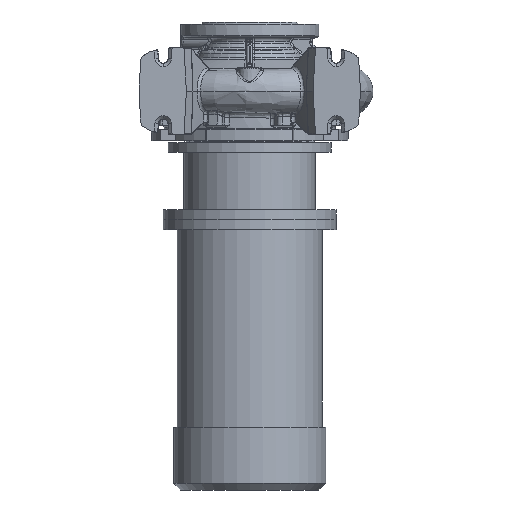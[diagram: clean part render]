
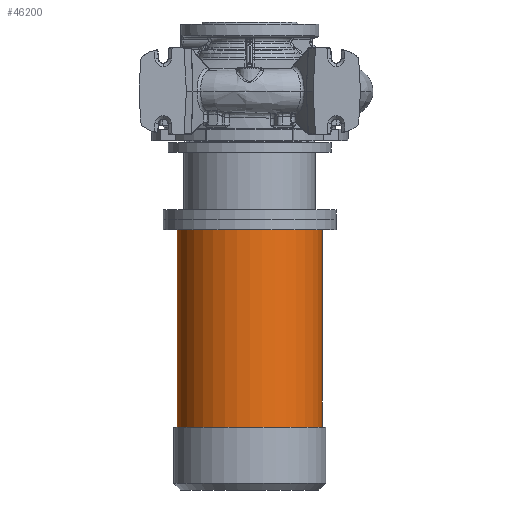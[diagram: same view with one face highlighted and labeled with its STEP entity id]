
A CAD part, front view. The second image highlights one B-rep face of the part: STEP entity #46200.
In plain terms, the highlighted cylindrical face has radius 105 mm (diameter 210 mm), a partial arc.
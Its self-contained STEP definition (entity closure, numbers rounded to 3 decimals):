
#801 = CARTESIAN_POINT ( 'NONE',  ( 105., 0., -485.3 ) ) ;
#1701 = VECTOR ( 'NONE', #11023, 1000. ) ;
#2691 = EDGE_CURVE ( 'NONE', #8380, #20653, #55429, .T. ) ;
#5071 = AXIS2_PLACEMENT_3D ( 'NONE', #41574, #36044, #14710 ) ;
#6377 = DIRECTION ( 'NONE',  ( 0., 0., -1. ) ) ;
#8380 = VERTEX_POINT ( 'NONE', #27964 ) ;
#8993 = ORIENTED_EDGE ( 'NONE', *, *, #9172, .F. ) ;
#9172 = EDGE_CURVE ( 'NONE', #20653, #25339, #13525, .T. ) ;
#9683 = EDGE_CURVE ( 'NONE', #51011, #25339, #40366, .T. ) ;
#10262 = ORIENTED_EDGE ( 'NONE', *, *, #9683, .T. ) ;
#11023 = DIRECTION ( 'NONE',  ( 0., 0., -1. ) ) ;
#13525 = CIRCLE ( 'NONE', #5071, 105. ) ;
#13576 = CARTESIAN_POINT ( 'NONE',  ( -105., 0., -485.3 ) ) ;
#14710 = DIRECTION ( 'NONE',  ( -1., 0., 0. ) ) ;
#20653 = VERTEX_POINT ( 'NONE', #801 ) ;
#20682 = EDGE_CURVE ( 'NONE', #8380, #51011, #66821, .T. ) ;
#22100 = FACE_OUTER_BOUND ( 'NONE', #54593, .T. ) ;
#23931 = VECTOR ( 'NONE', #32079, 1000. ) ;
#25339 = VERTEX_POINT ( 'NONE', #13576 ) ;
#25518 = DIRECTION ( 'NONE',  ( -1., 0., 0. ) ) ;
#27964 = CARTESIAN_POINT ( 'NONE',  ( 105., 0., -200.3 ) ) ;
#31174 = AXIS2_PLACEMENT_3D ( 'NONE', #39503, #6377, #45041 ) ;
#32079 = DIRECTION ( 'NONE',  ( 0., 0., -1. ) ) ;
#33898 = CARTESIAN_POINT ( 'NONE',  ( -105., 0., -200.3 ) ) ;
#35078 = CYLINDRICAL_SURFACE ( 'NONE', #39483, 105. ) ;
#36044 = DIRECTION ( 'NONE',  ( 0., 0., -1. ) ) ;
#38811 = CARTESIAN_POINT ( 'NONE',  ( 105., 0., -576.3 ) ) ;
#39483 = AXIS2_PLACEMENT_3D ( 'NONE', #64518, #58497, #25518 ) ;
#39503 = CARTESIAN_POINT ( 'NONE',  ( 0., 0., -200.3 ) ) ;
#40366 = LINE ( 'NONE', #52139, #23931 ) ;
#41574 = CARTESIAN_POINT ( 'NONE',  ( 0., 0., -485.3 ) ) ;
#45041 = DIRECTION ( 'NONE',  ( -1., 0., 0. ) ) ;
#46200 = ADVANCED_FACE ( 'NONE', ( #22100 ), #35078, .T. ) ;
#51011 = VERTEX_POINT ( 'NONE', #33898 ) ;
#51698 = ORIENTED_EDGE ( 'NONE', *, *, #2691, .F. ) ;
#52139 = CARTESIAN_POINT ( 'NONE',  ( -105., 0., -576.3 ) ) ;
#54593 = EDGE_LOOP ( 'NONE', ( #51698, #59860, #10262, #8993 ) ) ;
#55429 = LINE ( 'NONE', #38811, #1701 ) ;
#58497 = DIRECTION ( 'NONE',  ( 0., 0., -1. ) ) ;
#59860 = ORIENTED_EDGE ( 'NONE', *, *, #20682, .T. ) ;
#64518 = CARTESIAN_POINT ( 'NONE',  ( 0., 0., -576.3 ) ) ;
#66821 = CIRCLE ( 'NONE', #31174, 105. ) ;
